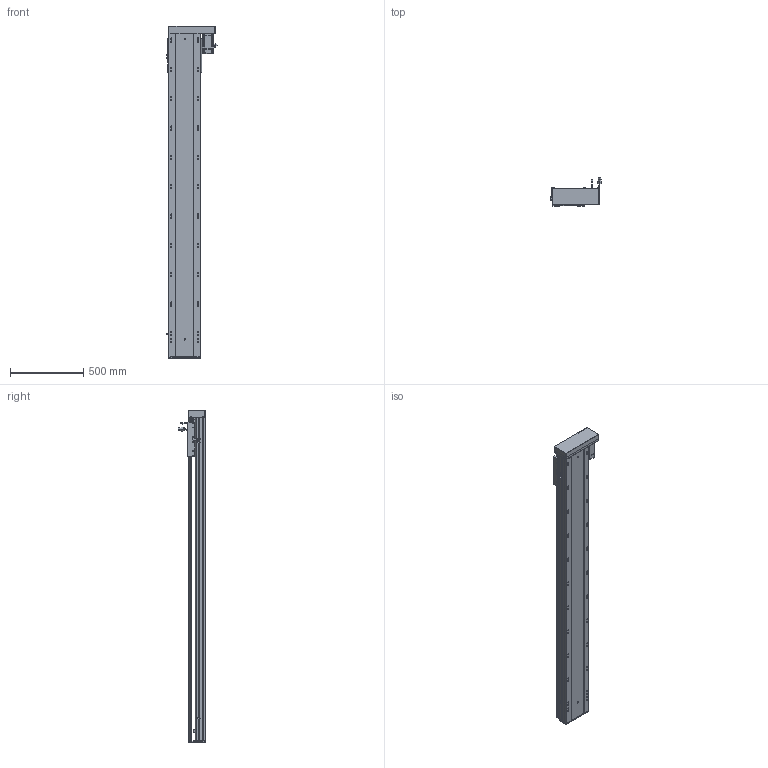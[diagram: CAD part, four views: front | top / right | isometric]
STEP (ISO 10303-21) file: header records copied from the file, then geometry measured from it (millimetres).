
FILE_DESCRIPTION (( 'STEP AP203' ), '1' );
FILE_NAME ('RY220-L2525-800-RK-邧嶺.SLDASM_1850.step', '2022-08-06T08:53:42', ( '' ), ( '' ), 'SwSTEP 2.0', 'SolidWorks 2016', '' );
FILE_SCHEMA (( 'CONFIG_CONTROL_DESIGN' ));
Length unit declared in the file: millimetre
Products named in the file (12): 滅袉蝶18-15; RY220左右折电机安装板; RY220蛌殏菁釱-800-邧嶺_1850; RY220綴裔啣; 覜茼ん672; RY220-800-蛌殏奻裔啣_1850; RY220半封闭25-32螺母铝滑块; RY220-L2525-800-RK-邧嶺.SLDASM_1850; RY220-俋离672覜茼んえ; 滅袉蝶18-10; 怢湛750W_ECMA-CX0807ES; RY220酘衵殏萇儂欶
Assembly tree (15 placements, depth 2):
  RY220-L2525-800-RK-邧嶺.SLDASM_1850
    RY220蛌殏菁釱-800-邧嶺_1850
    RY220-800-蛌殏奻裔啣_1850
    怢湛750W_ECMA-CX0807ES
    滅袉蝶18-10  x2
    RY220-俋离672覜茼んえ
    覜茼ん672  x3
    RY220綴裔啣
    RY220半封闭25-32螺母铝滑块
    滅袉蝶18-15  x2
    RY220左右折电机安装板
    RY220酘衵殏萇儂欶
Bounding box: 347.44 x 187.27 x 2264 mm (x, y, z)
Volume: 17234424.5 mm3; surface area: 5235118.4 mm2
Topology: 16 solids, 16 shells, 2357 faces, 6516 edges, 4089 vertices
Faces by surface type: cylinder 1101, plane 904, cone 282, bspline 44, sphere 16, torus 10
Entity records: 77987 total; most frequent: CARTESIAN_POINT 22431, ORIENTED_EDGE 11496, DIRECTION 10956, EDGE_CURVE 5748, AXIS2_PLACEMENT_3D 3899, VERTEX_POINT 3745, VECTOR 3158, LINE 3158
